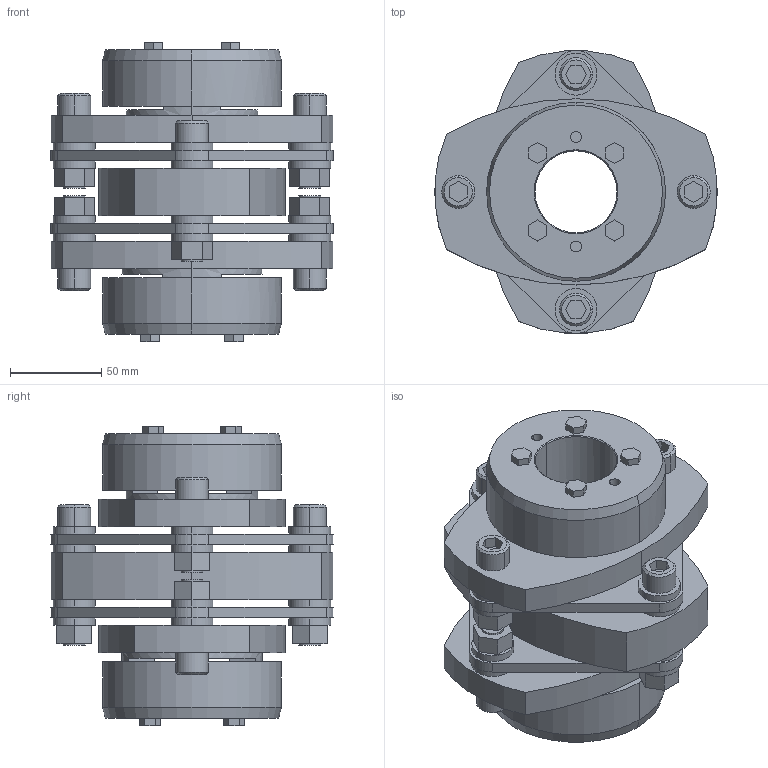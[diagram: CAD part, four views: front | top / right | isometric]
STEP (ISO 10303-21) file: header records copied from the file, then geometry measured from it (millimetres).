
FILE_DESCRIPTION((''),'2;1');
FILE_NAME('LCD-155T7-45×48.stp','2015-10-28T09:22:18',(''),(''),'AutoCAD STEP 2000i','AutoCAD 2000i',', , ');
FILE_SCHEMA(('CONFIG_CONTROL_DESIGN'));
Length unit declared in the file: millimetre
Products named in the file (6): LCD-155T7-45×50; 忣兜1; LC155T7-T050; LC155T7-T045-1; LC155T7-T045; LCD155-ITA
Assembly tree (5 placements, depth 2):
  LCD-155T7-45×50
    忣兜1
    LC155T7-T050
    LC155T7-T045-1
    LC155T7-T045
    LCD155-ITA
Bounding box: 155 x 154.9 x 164 mm (x, y, z)
Volume: 1183049.8 mm3; surface area: 209299.9 mm2
Topology: 1 solids, 1 shells, 334 faces, 818 edges, 538 vertices
Faces by surface type: plane 190, cylinder 120, cone 24
Entity records: 10085 total; most frequent: DIRECTION 1780, CARTESIAN_POINT 1696, ORIENTED_EDGE 1636, EDGE_CURVE 818, AXIS2_PLACEMENT_3D 622, VERTEX_POINT 538, VECTOR 536, LINE 536
